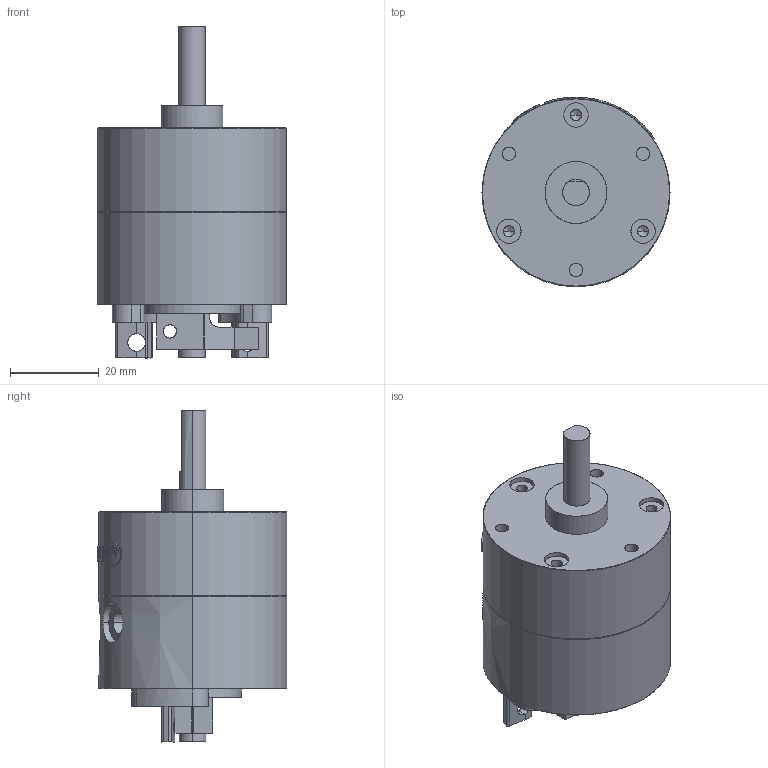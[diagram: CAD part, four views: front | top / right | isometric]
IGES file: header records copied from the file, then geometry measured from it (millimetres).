
Start section: SolidWorks IGES file using analytic representation for surfaces
Global section: file name: C:\Users\Chieh_Lu\Dropbox\¤u§@«Ç\PRO\PROA10S\PROA10S-#-#\PROA10S-#-#.IGS; native system: SolidWorks 2014; preprocessor: SolidWorks 2014; author: Chieh_Lu; date: 150731.005842; units: millimetre
Bounding box: 42.5 x 42.8 x 75 mm (x, y, z)
Surface area: 17596.8 mm2 (no closed solid volume)
Topology: 0 solids, 0 shells, 349 faces, 5492 edges, 5482 vertices
Faces by surface type: revolution 182, bspline 167
